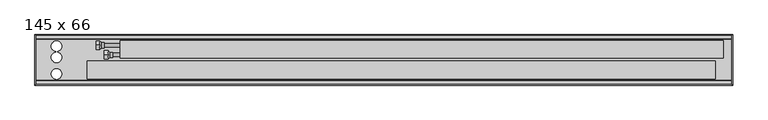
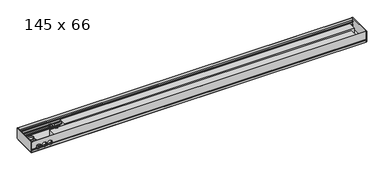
"""IFC4 building model written with IfcOpenShell, lengths in millimetres: proxy geometry, Mohlenhof_Внутрипольный конвектор_QSKM : 145 x 66."""

from ifc_helpers import new_model, si_unit, point, frame, frame_2d, origin, place, context, project, spatial, polyline, circle_curve, ellipse_curve, trimmed, segment, composite_curve, outline, extrude, source, transform, mapped, element, save
from ifc_brep_helpers import plane_surface, cylinder_surface, revolved_surface, advanced_brep


def proxy_145_x_66_9a70aef4(model_context):
    return source(origin(), model_context, "Body", "SolidModel", [
        extrude(outline(composite_curve([segment(trimmed(circle_curve(frame_2d((0.0, -223.5)), 4.5), [point((-4.5, -223.5))], [point((4.5, -223.5))], False, "CARTESIAN"), True, "CONTINUOUS"), segment(trimmed(circle_curve(frame_2d((0.0, -223.5)), 4.5), [point((4.5, -223.5))], [point((-4.5, -223.5))], False, "CARTESIAN"), True, "CONTINUOUS")], self_intersect=False)), frame((0.0, 0.0, -79.0), z_axis=(0.0, 0.0, 1.0), x_axis=(1.0, 0.0, 0.0)), (0.0, 0.0, 1.0), 7.0),
        extrude(outline(composite_curve([segment(trimmed(circle_curve(frame_2d((0.0, -223.5)), 4.0), [point((-4.0, -223.5))], [point((4.0, -223.5))], False, "CARTESIAN"), True, "CONTINUOUS"), segment(trimmed(circle_curve(frame_2d((0.0, -223.5)), 4.0), [point((4.0, -223.5))], [point((-4.0, -223.5))], False, "CARTESIAN"), True, "CONTINUOUS")], self_intersect=False)), frame((0.0, 0.0, -72.0), z_axis=(0.0, 0.0, 1.0), x_axis=(1.0, 0.0, 0.0)), (0.0, 0.0, 1.0), 1.5),
        extrude(outline(composite_curve([segment(trimmed(circle_curve(frame_2d((0.0, -121.5)), 4.5), [point((-4.5, -121.5))], [point((4.5, -121.5))], False, "CARTESIAN"), True, "CONTINUOUS"), segment(trimmed(circle_curve(frame_2d((0.0, -121.5)), 4.5), [point((4.5, -121.5))], [point((-4.5, -121.5))], False, "CARTESIAN"), True, "CONTINUOUS")], self_intersect=False)), frame((0.0, 0.0, -79.0), z_axis=(0.0, 0.0, 1.0), x_axis=(1.0, 0.0, 0.0)), (0.0, 0.0, 1.0), 7.0),
        extrude(outline(composite_curve([segment(trimmed(circle_curve(frame_2d((0.0, -121.5)), 4.0), [point((-4.0, -121.5))], [point((4.0, -121.5))], False, "CARTESIAN"), True, "CONTINUOUS"), segment(trimmed(circle_curve(frame_2d((0.0, -121.5)), 4.0), [point((4.0, -121.5))], [point((-4.0, -121.5))], False, "CARTESIAN"), True, "CONTINUOUS")], self_intersect=False)), frame((0.0, 0.0, -72.0), z_axis=(0.0, 0.0, 1.0), x_axis=(1.0, 0.0, 0.0)), (0.0, 0.0, 1.0), 1.5),
        advanced_brep(
        [(-790.0, -158.0, -47.5), (-790.0, -146.0, -47.5), (-790.0, -170.0, -47.5), (-777.5, -165.5, -47.5), (-777.5, -150.5, -47.5), (-777.5, -158.0, -47.5), (-785.0, -165.5, -47.5), (-785.0, -150.5, -47.5)],
        [
            (0, 1),
            (1, 2, circle_curve(frame((-790.0, -158.0, -47.5), z_axis=(-1.0, 0.0, 0.0), x_axis=(0.0, 1.0, 0.0)), 12.0)),
            (2, 0),
            (2, 1, circle_curve(frame((-790.0, -158.0, -47.5), z_axis=(-1.0, 0.0, 0.0), x_axis=(0.0, 1.0, 0.0)), 12.0)),
            (3, 4, circle_curve(frame((-777.5, -158.0, -47.5), z_axis=(1.0, 0.0, 0.0), x_axis=(0.0, 1.0, 0.0)), 7.5)),
            (4, 5),
            (5, 3),
            (4, 3, circle_curve(frame((-777.5, -158.0, -47.5), z_axis=(1.0, 0.0, 0.0), x_axis=(0.0, 1.0, 0.0)), 7.5)),
            (6, 7, circle_curve(frame((-785.0, -158.0, -47.5), z_axis=(1.0, 0.0, 0.0), x_axis=(0.0, 1.0, 0.0)), 7.5)),
            (7, 4),
            (3, 6),
            (7, 6, circle_curve(frame((-785.0, -158.0, -47.5), z_axis=(1.0, 0.0, 0.0), x_axis=(0.0, 1.0, 0.0)), 7.5)),
            (1, 7),
            (6, 2),
        ],
        [
            plane_surface(frame((-790.0, -158.0, -47.5), z_axis=(-1.0, 0.0, 0.0), x_axis=(0.0, 1.0, 0.0))),
            plane_surface(frame((-777.5, -158.0, -47.5), z_axis=(1.0, 0.0, 0.0), x_axis=(0.0, 1.0, 0.0))),
            cylinder_surface(frame((-790.0, -158.0, -47.5), z_axis=(-1.0, 0.0, 0.0), x_axis=(0.0, 1.0, 0.0)), 7.5),
            revolved_surface(polyline([(-785.0, -150.5, -47.5), (-790.0, -146.0, -47.5)]), (-790.0, -158.0, -47.5), (-1.0, 0.0, 0.0)),
        ],
        [
            (0, [[1, 2, 3]]),
            (0, [[-3, 4, -1]]),
            (1, [[5, 6, 7]]),
            (1, [[8, -7, -6]]),
            (2, [[9, 10, -5, 11]]),
            (2, [[12, -11, -8, -10]]),
            (3, [[-2, 13, -9, 14]]),
            (3, [[-4, -14, -12, -13]]),
        ],
    ),
        extrude(outline(polyline([(-158.0, -33.6435935), (-146.0, -40.5717968), (-146.0, -54.4282032), (-158.0, -61.3564065), (-170.0, -54.4282032), (-170.0, -40.5717968), (-158.0, -33.6435935)]), holes=[composite_curve([segment(trimmed(circle_curve(frame_2d((-158.0, -47.5)), 8.5), [point((-149.5, -47.5))], [point((-166.5, -47.5))], True, "CARTESIAN"), True, "CONTINUOUS"), segment(trimmed(circle_curve(frame_2d((-158.0, -47.5)), 8.5), [point((-166.5, -47.5))], [point((-149.5, -47.5))], True, "CARTESIAN"), True, "CONTINUOUS")], self_intersect=False)]), frame((-801.0, 0.0, 0.0), z_axis=(1.0, 0.0, 0.0), x_axis=(0.0, 1.0, 0.0)), (0.0, 0.0, 1.0), 11.0),
        advanced_brep(
        [(-814.0, -130.0, -34.5), (-814.0, -118.0, -34.5), (-814.0, -142.0, -34.5), (-801.5, -137.5, -34.5), (-801.5, -122.5, -34.5), (-801.5, -130.0, -34.5), (-809.0, -137.5, -34.5), (-809.0, -122.5, -34.5)],
        [
            (0, 1),
            (1, 2, circle_curve(frame((-814.0, -130.0, -34.5), z_axis=(-1.0, 0.0, 0.0), x_axis=(0.0, 1.0, 0.0)), 12.0)),
            (2, 0),
            (2, 1, circle_curve(frame((-814.0, -130.0, -34.5), z_axis=(-1.0, 0.0, 0.0), x_axis=(0.0, 1.0, 0.0)), 12.0)),
            (3, 4, circle_curve(frame((-801.5, -130.0, -34.5), z_axis=(1.0, 0.0, 0.0), x_axis=(0.0, 1.0, 0.0)), 7.5)),
            (4, 5),
            (5, 3),
            (4, 3, circle_curve(frame((-801.5, -130.0, -34.5), z_axis=(1.0, 0.0, 0.0), x_axis=(0.0, 1.0, 0.0)), 7.5)),
            (6, 7, circle_curve(frame((-809.0, -130.0, -34.5), z_axis=(1.0, 0.0, 0.0), x_axis=(0.0, 1.0, 0.0)), 7.5)),
            (7, 4),
            (3, 6),
            (7, 6, circle_curve(frame((-809.0, -130.0, -34.5), z_axis=(1.0, 0.0, 0.0), x_axis=(0.0, 1.0, 0.0)), 7.5)),
            (1, 7),
            (6, 2),
        ],
        [
            plane_surface(frame((-814.0, -130.0, -34.5), z_axis=(-1.0, 0.0, 0.0), x_axis=(0.0, 1.0, 0.0))),
            plane_surface(frame((-801.5, -130.0, -34.5), z_axis=(1.0, 0.0, 0.0), x_axis=(0.0, 1.0, 0.0))),
            cylinder_surface(frame((-814.0, -130.0, -34.5), z_axis=(-1.0, 0.0, 0.0), x_axis=(0.0, 1.0, 0.0)), 7.5),
            revolved_surface(polyline([(-809.0, -122.5, -34.5), (-814.0, -118.0, -34.5)]), (-814.0, -130.0, -34.5), (-1.0, 0.0, 0.0)),
        ],
        [
            (0, [[1, 2, 3]]),
            (0, [[-3, 4, -1]]),
            (1, [[5, 6, 7]]),
            (1, [[8, -7, -6]]),
            (2, [[9, 10, -5, 11]]),
            (2, [[12, -11, -8, -10]]),
            (3, [[-2, 13, -9, 14]]),
            (3, [[-4, -14, -12, -13]]),
        ],
    ),
        extrude(outline(polyline([(-130.0, -20.6435935), (-118.0, -27.5717968), (-118.0, -41.4282032), (-130.0, -48.3564065), (-142.0, -41.4282032), (-142.0, -27.5717968), (-130.0, -20.6435935)]), holes=[composite_curve([segment(trimmed(circle_curve(frame_2d((-130.0, -34.5)), 8.5), [point((-121.5, -34.5))], [point((-138.5, -34.5))], True, "CARTESIAN"), True, "CONTINUOUS"), segment(trimmed(circle_curve(frame_2d((-130.0, -34.5)), 8.5), [point((-138.5, -34.5))], [point((-121.5, -34.5))], True, "CARTESIAN"), True, "CONTINUOUS")], self_intersect=False)]), frame((-825.0, 0.0, 0.0), z_axis=(1.0, 0.0, 0.0), x_axis=(0.0, 1.0, 0.0)), (0.0, 0.0, 1.0), 11.0),
        extrude(outline(composite_curve([segment(trimmed(circle_curve(frame_2d((-975.0, -223.5)), 4.5), [point((-979.5, -223.5))], [point((-970.5, -223.5))], False, "CARTESIAN"), True, "CONTINUOUS"), segment(trimmed(circle_curve(frame_2d((-975.0, -223.5)), 4.5), [point((-970.5, -223.5))], [point((-979.5, -223.5))], False, "CARTESIAN"), True, "CONTINUOUS")], self_intersect=False)), frame((0.0, 0.0, -79.0), z_axis=(0.0, 0.0, 1.0), x_axis=(1.0, 0.0, 0.0)), (0.0, 0.0, 1.0), 7.0),
        extrude(outline(composite_curve([segment(trimmed(circle_curve(frame_2d((-975.0, -223.5)), 4.0), [point((-979.0, -223.5))], [point((-971.0, -223.5))], False, "CARTESIAN"), True, "CONTINUOUS"), segment(trimmed(circle_curve(frame_2d((-975.0, -223.5)), 4.0), [point((-971.0, -223.5))], [point((-979.0, -223.5))], False, "CARTESIAN"), True, "CONTINUOUS")], self_intersect=False)), frame((0.0, 0.0, -72.0), z_axis=(0.0, 0.0, 1.0), x_axis=(1.0, 0.0, 0.0)), (0.0, 0.0, 1.0), 1.5),
        extrude(outline(composite_curve([segment(trimmed(circle_curve(frame_2d((-975.0, -121.5)), 4.5), [point((-979.5, -121.5))], [point((-970.5, -121.5))], False, "CARTESIAN"), True, "CONTINUOUS"), segment(trimmed(circle_curve(frame_2d((-975.0, -121.5)), 4.5), [point((-970.5, -121.5))], [point((-979.5, -121.5))], False, "CARTESIAN"), True, "CONTINUOUS")], self_intersect=False)), frame((0.0, 0.0, -79.0), z_axis=(0.0, 0.0, 1.0), x_axis=(1.0, 0.0, 0.0)), (0.0, 0.0, 1.0), 7.0),
        extrude(outline(composite_curve([segment(trimmed(circle_curve(frame_2d((-975.0, -121.5)), 4.0), [point((-979.0, -121.5))], [point((-971.0, -121.5))], False, "CARTESIAN"), True, "CONTINUOUS"), segment(trimmed(circle_curve(frame_2d((-975.0, -121.5)), 4.0), [point((-971.0, -121.5))], [point((-979.0, -121.5))], False, "CARTESIAN"), True, "CONTINUOUS")], self_intersect=False)), frame((0.0, 0.0, -72.0), z_axis=(0.0, 0.0, 1.0), x_axis=(1.0, 0.0, 0.0)), (0.0, 0.0, 1.0), 1.5),
        extrude(outline(composite_curve([segment(trimmed(circle_curve(frame_2d((975.0, -223.5)), 4.5), [point((970.5, -223.5))], [point((979.5, -223.5))], False, "CARTESIAN"), True, "CONTINUOUS"), segment(trimmed(circle_curve(frame_2d((975.0, -223.5)), 4.5), [point((979.5, -223.5))], [point((970.5, -223.5))], False, "CARTESIAN"), True, "CONTINUOUS")], self_intersect=False)), frame((0.0, 0.0, -79.0), z_axis=(0.0, 0.0, 1.0), x_axis=(1.0, 0.0, 0.0)), (0.0, 0.0, 1.0), 7.0),
        extrude(outline(composite_curve([segment(trimmed(circle_curve(frame_2d((975.0, -223.5)), 4.0), [point((971.0, -223.5))], [point((979.0, -223.5))], False, "CARTESIAN"), True, "CONTINUOUS"), segment(trimmed(circle_curve(frame_2d((975.0, -223.5)), 4.0), [point((979.0, -223.5))], [point((971.0, -223.5))], False, "CARTESIAN"), True, "CONTINUOUS")], self_intersect=False)), frame((0.0, 0.0, -72.0), z_axis=(0.0, 0.0, 1.0), x_axis=(1.0, 0.0, 0.0)), (0.0, 0.0, 1.0), 1.5),
        extrude(outline(composite_curve([segment(trimmed(circle_curve(frame_2d((975.0, -121.5)), 4.5), [point((970.5, -121.5))], [point((979.5, -121.5))], False, "CARTESIAN"), True, "CONTINUOUS"), segment(trimmed(circle_curve(frame_2d((975.0, -121.5)), 4.5), [point((979.5, -121.5))], [point((970.5, -121.5))], False, "CARTESIAN"), True, "CONTINUOUS")], self_intersect=False)), frame((0.0, 0.0, -79.0), z_axis=(0.0, 0.0, 1.0), x_axis=(1.0, 0.0, 0.0)), (0.0, 0.0, 1.0), 7.0),
        extrude(outline(composite_curve([segment(trimmed(circle_curve(frame_2d((975.0, -121.5)), 4.0), [point((971.0, -121.5))], [point((979.0, -121.5))], False, "CARTESIAN"), True, "CONTINUOUS"), segment(trimmed(circle_curve(frame_2d((975.0, -121.5)), 4.0), [point((979.0, -121.5))], [point((971.0, -121.5))], False, "CARTESIAN"), True, "CONTINUOUS")], self_intersect=False)), frame((0.0, 0.0, -72.0), z_axis=(0.0, 0.0, 1.0), x_axis=(1.0, 0.0, 0.0)), (0.0, 0.0, 1.0), 1.5),
        extrude(outline(polyline([(950.0, -175.87), (950.0, -227.18), (-850.0, -227.18), (-850.0, -175.87), (950.0, -175.87)])), frame((0.0, 0.0, -62.5), z_axis=(0.0, 0.0, 1.0), x_axis=(1.0, 0.0, 0.0)), (0.0, 0.0, 1.0), 43.62),
        extrude(outline(composite_curve([segment(trimmed(circle_curve(frame_2d((-158.0, -47.5)), 5.0), [point((-163.0, -47.5))], [point((-153.0, -47.5))], False, "CARTESIAN"), True, "CONTINUOUS"), segment(trimmed(circle_curve(frame_2d((-158.0, -47.5)), 5.0), [point((-153.0, -47.5))], [point((-163.0, -47.5))], False, "CARTESIAN"), True, "CONTINUOUS")], self_intersect=False)), frame((-801.0, 0.0, 0.0), z_axis=(1.0, 0.0, 0.0), x_axis=(0.0, 1.0, 0.0)), (0.0, 0.0, 1.0), 46.0),
        extrude(outline(composite_curve([segment(trimmed(circle_curve(frame_2d((-130.0, -34.5)), 5.0), [point((-135.0, -34.5))], [point((-125.0, -34.5))], False, "CARTESIAN"), True, "CONTINUOUS"), segment(trimmed(circle_curve(frame_2d((-130.0, -34.5)), 5.0), [point((-125.0, -34.5))], [point((-135.0, -34.5))], False, "CARTESIAN"), True, "CONTINUOUS")], self_intersect=False)), frame((-825.0, 0.0, 0.0), z_axis=(1.0, 0.0, 0.0), x_axis=(0.0, 1.0, 0.0)), (0.0, 0.0, 1.0), 70.0),
        advanced_brep(
        [(998.0, -245.0, -48.5473602), (998.0, -243.5, -49.2468216), (998.0, -242.5, -49.2468216), (998.0, -242.5, -46.0008038), (998.0, -240.0, -46.0008038), (998.0, -240.0, -56.5008038), (998.0, -242.5, -56.5008038), (998.0, -242.5, -53.2468216), (998.0, -243.5, -53.2468216), (998.0, -245.0, -53.9462831), (998.0, -245.0, -66.5), (998.0, -241.0, -66.5), (998.0, -241.0, -65.2), (998.0, -243.0, -65.2), (998.0, -243.0, -62.5), (998.0, -232.0, -62.5), (998.0, -232.0, -54.9172677), (998.0, -233.4172677, -53.5), (998.0, -237.0, -53.5), (998.0, -237.0, -45.91), (998.0, -239.0, -43.91), (998.0, -239.0, -39.5), (998.0, -240.0, -39.5), (998.0, -240.0, -43.5), (998.0, -242.4956439, -43.5), (998.0, -242.4956439, -23.0), (998.0, -240.0, -23.0), (998.0, -240.0, -27.0), (998.0, -239.0, -27.0), (998.0, -239.0, -17.0), (998.0, -233.3956439, -17.0), (998.0, -233.3956439, -15.0), (998.0, -243.4, -15.0), (998.0, -243.4, 0.0), (998.0, -245.0, 0.0), (-998.0, -245.0, -48.5473602), (-998.0, -245.0, 0.0), (-998.0, -243.4, 0.0), (-998.0, -243.4, -15.0), (-998.0, -233.3956439, -15.0), (-998.0, -233.3956439, -17.0), (-998.0, -239.0, -17.0), (-998.0, -239.0, -27.0), (-998.0, -240.0, -27.0), (-998.0, -240.0, -23.0), (-998.0, -242.4956439, -23.0), (-998.0, -242.4956439, -43.5), (-998.0, -240.0, -43.5), (-998.0, -240.0, -39.5), (-998.0, -239.0, -39.5), (-998.0, -239.0, -43.91), (-998.0, -237.0, -45.91), (-998.0, -237.0, -53.5), (-998.0, -233.4172677, -53.5), (-998.0, -232.0, -54.9172677), (-998.0, -232.0, -62.5), (-998.0, -243.0, -62.5), (-998.0, -243.0, -65.2), (-998.0, -241.0, -65.2), (-998.0, -241.0, -66.5), (-998.0, -245.0, -66.5), (-998.0, -245.0, -53.9462831), (-998.0, -243.5, -53.2468216), (-998.0, -242.5, -53.2468216), (-998.0, -242.5, -56.5008038), (-998.0, -240.0, -56.5008038), (-998.0, -240.0, -46.0008038), (-998.0, -242.5, -46.0008038), (-998.0, -242.5, -49.2468216), (-998.0, -243.5, -49.2468216), (-878.7585985, -245.0, -48.5473602), (-879.155283, -243.5, -49.2468216), (-970.844717, -243.5, -49.2468216), (-971.2414015, -245.0, -48.5473602), (-938.2414015, -245.0, -48.5473602), (-944.7585985, -245.0, -48.5473602), (-945.155283, -243.5, -49.2468216), (-937.844717, -243.5, -49.2468216), (-905.2414015, -245.0, -48.5473602), (-911.7585985, -245.0, -48.5473602), (-912.155283, -243.5, -49.2468216), (-904.844717, -243.5, -49.2468216), (-879.155283, -242.5, -49.2468216), (-970.844717, -242.5, -49.2468216), (-945.155283, -242.5, -49.2468216), (-937.844717, -242.5, -49.2468216), (-912.155283, -242.5, -49.2468216), (-904.844717, -242.5, -49.2468216), (-877.6911648, -242.5, -46.0008038), (-972.3088352, -242.5, -46.0008038), (-943.6911648, -242.5, -46.0008038), (-939.3088352, -242.5, -46.0008038), (-910.6911648, -242.5, -46.0008038), (-906.3088352, -242.5, -46.0008038), (-877.6911648, -240.0, -46.0008038), (-972.3088352, -240.0, -46.0008038), (-943.6911648, -240.0, -46.0008038), (-939.3088352, -240.0, -46.0008038), (-910.6911648, -240.0, -46.0008038), (-906.3088352, -240.0, -46.0008038), (-967.328032, -242.5, -53.2468216), (-948.671968, -242.5, -53.2468216), (-934.328032, -242.5, -53.2468216), (-915.671968, -242.5, -53.2468216), (-901.328032, -242.5, -53.2468216), (-882.671968, -242.5, -53.2468216), (-882.671968, -243.5, -53.2468216), (-967.328032, -243.5, -53.2468216), (-948.671968, -243.5, -53.2468216), (-934.328032, -243.5, -53.2468216), (-915.671968, -243.5, -53.2468216), (-901.328032, -243.5, -53.2468216), (-883.6280208, -245.0, -53.9462831), (-966.3719792, -245.0, -53.9462831), (-949.6280208, -245.0, -53.9462831), (-933.3719792, -245.0, -53.9462831), (-916.6280208, -245.0, -53.9462831), (-900.3719792, -245.0, -53.9462831), (-964.7064841, -232.0, -54.9172677), (-951.2935159, -232.0, -54.9172677), (-931.7064841, -232.0, -54.9172677), (-918.2935159, -232.0, -54.9172677), (-898.7064841, -232.0, -54.9172677), (-885.2935159, -232.0, -54.9172677), (-883.0, -233.4172677, -53.5), (-967.0, -233.4172677, -53.5), (-949.0, -233.4172677, -53.5), (-934.0, -233.4172677, -53.5), (-916.0, -233.4172677, -53.5), (-901.0, -233.4172677, -53.5), (-883.0, -237.0, -53.5), (-967.0, -237.0, -53.5), (-949.0, -237.0, -53.5), (-934.0, -237.0, -53.5), (-916.0, -237.0, -53.5), (-901.0, -237.0, -53.5), (-877.6629187, -237.0, -45.91), (-972.3370813, -237.0, -45.91), (-943.6629187, -237.0, -45.91), (-939.3370813, -237.0, -45.91), (-910.6629187, -237.0, -45.91), (-906.3370813, -237.0, -45.91), (-877.1948691, -239.0, -43.91), (-972.8051309, -239.0, -43.91), (-943.1948691, -239.0, -43.91), (-939.8051309, -239.0, -43.91), (-910.1948691, -239.0, -43.91), (-906.8051309, -239.0, -43.91), (-877.0, -239.0, -41.5), (-877.1339313, -239.0, -39.5), (-972.8660687, -239.0, -39.5), (-973.0, -239.0, -41.5), (-943.0, -239.0, -41.5), (-943.1339313, -239.0, -39.5), (-939.8660687, -239.0, -39.5), (-940.0, -239.0, -41.5), (-910.0, -239.0, -41.5), (-910.1339313, -239.0, -39.5), (-906.8660687, -239.0, -39.5), (-907.0, -239.0, -41.5), (-877.1339313, -240.0, -39.5), (-972.8660687, -240.0, -39.5), (-943.1339313, -240.0, -39.5), (-939.8660687, -240.0, -39.5), (-910.1339313, -240.0, -39.5), (-906.8660687, -240.0, -39.5), (-877.0, -240.0, -41.5), (-877.1339313, -240.0, -43.5), (-972.8660687, -240.0, -43.5), (-973.0, -240.0, -41.5), (-943.0, -240.0, -41.5), (-943.1339313, -240.0, -43.5), (-939.8660687, -240.0, -43.5), (-940.0, -240.0, -41.5), (-910.0, -240.0, -41.5), (-910.1339313, -240.0, -43.5), (-906.8660687, -240.0, -43.5), (-907.0, -240.0, -41.5), (-877.1339313, -242.4956439, -43.5), (-972.8660687, -242.4956439, -43.5), (-943.1339313, -242.4956439, -43.5), (-939.8660687, -242.4956439, -43.5), (-910.1339313, -242.4956439, -43.5), (-906.8660687, -242.4956439, -43.5), (-877.0, -242.4956439, -41.5), (-907.0, -242.4956439, -41.5), (-910.0, -242.4956439, -41.5), (-940.0, -242.4956439, -41.5), (-943.0, -242.4956439, -41.5), (-973.0, -242.4956439, -41.5), (-961.8405729, -240.0, -27.0), (-954.1594271, -240.0, -27.0), (-928.8405729, -240.0, -27.0), (-921.1594271, -240.0, -27.0), (-895.8405729, -240.0, -27.0), (-888.1594271, -240.0, -27.0), (-888.1594271, -239.0, -27.0), (-961.8405729, -239.0, -27.0), (-954.1594271, -239.0, -27.0), (-928.8405729, -239.0, -27.0), (-921.1594271, -239.0, -27.0), (-895.8405729, -239.0, -27.0), (-973.0, -245.0, -41.5), (-943.0, -245.0, -41.5), (-940.0, -245.0, -41.5), (-910.0, -245.0, -41.5), (-907.0, -245.0, -41.5), (-877.0, -245.0, -41.5)],
        [
            (0, 1),
            (1, 2),
            (2, 3),
            (3, 4),
            (4, 5),
            (5, 6),
            (6, 7),
            (7, 8),
            (8, 9),
            (9, 10),
            (10, 11),
            (11, 12),
            (12, 13),
            (13, 14),
            (14, 15),
            (15, 16),
            (16, 17),
            (17, 18),
            (18, 19),
            (19, 20),
            (20, 21),
            (21, 22),
            (22, 23),
            (23, 24),
            (24, 25),
            (25, 26),
            (26, 27),
            (27, 28),
            (28, 29),
            (29, 30),
            (30, 31),
            (31, 32),
            (32, 33),
            (33, 34),
            (34, 0),
            (35, 36),
            (36, 37),
            (37, 38),
            (38, 39),
            (39, 40),
            (40, 41),
            (41, 42),
            (42, 43),
            (43, 44),
            (44, 45),
            (45, 46),
            (46, 47),
            (47, 48),
            (48, 49),
            (49, 50),
            (50, 51),
            (51, 52),
            (52, 53),
            (53, 54),
            (54, 55),
            (55, 56),
            (56, 57),
            (57, 58),
            (58, 59),
            (59, 60),
            (60, 61),
            (61, 62),
            (62, 63),
            (63, 64),
            (64, 65),
            (65, 66),
            (66, 67),
            (67, 68),
            (68, 69),
            (69, 35),
            (0, 70),
            (70, 71, ellipse_curve(frame((-892.0, -260.1131126, -41.5), z_axis=(0.0, 0.42261826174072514, 0.9063077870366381), x_axis=(0.0, -0.9063077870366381, 0.42261826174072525)), 35.4930237, 15.0)),
            (71, 1),
            (69, 72),
            (72, 73, ellipse_curve(frame((-958.0, -260.1131126, -41.5), z_axis=(0.0, 0.42261826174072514, 0.9063077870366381), x_axis=(0.0, -0.9063077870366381, 0.42261826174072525)), 35.4930237, 15.0)),
            (73, 35),
            (74, 75),
            (75, 76, ellipse_curve(frame((-958.0, -260.1131126, -41.5), z_axis=(0.0, 0.42261826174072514, 0.9063077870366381), x_axis=(0.0, -0.9063077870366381, 0.42261826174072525)), 35.4930237, 15.0)),
            (76, 77),
            (77, 74, ellipse_curve(frame((-925.0, -260.1131126, -41.5), z_axis=(0.0, 0.42261826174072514, 0.9063077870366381), x_axis=(0.0, -0.9063077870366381, 0.42261826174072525)), 35.4930237, 15.0)),
            (78, 79),
            (79, 80, ellipse_curve(frame((-925.0, -260.1131126, -41.5), z_axis=(0.0, 0.42261826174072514, 0.9063077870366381), x_axis=(0.0, -0.9063077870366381, 0.42261826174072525)), 35.4930237, 15.0)),
            (80, 81),
            (81, 78, ellipse_curve(frame((-892.0, -260.1131126, -41.5), z_axis=(0.0, 0.42261826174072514, 0.9063077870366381), x_axis=(0.0, -0.9063077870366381, 0.42261826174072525)), 35.4930237, 15.0)),
            (71, 82),
            (82, 2),
            (68, 83),
            (83, 72),
            (76, 84),
            (84, 85),
            (85, 77),
            (80, 86),
            (86, 87),
            (87, 81),
            (82, 88, circle_curve(frame((-892.0, -242.5, -41.5), z_axis=(0.0, -1.0, 0.0), x_axis=(1.0, 0.0, 0.0)), 15.0)),
            (88, 3),
            (67, 89),
            (89, 83, circle_curve(frame((-958.0, -242.5, -41.5), z_axis=(0.0, -1.0, 0.0), x_axis=(1.0, 0.0, 0.0)), 15.0)),
            (84, 90, circle_curve(frame((-958.0, -242.5, -41.5), z_axis=(0.0, -1.0, 0.0), x_axis=(1.0, 0.0, 0.0)), 15.0)),
            (90, 91),
            (91, 85, circle_curve(frame((-925.0, -242.5, -41.5), z_axis=(0.0, -1.0, 0.0), x_axis=(1.0, 0.0, 0.0)), 15.0)),
            (86, 92, circle_curve(frame((-925.0, -242.5, -41.5), z_axis=(0.0, -1.0, 0.0), x_axis=(1.0, 0.0, 0.0)), 15.0)),
            (92, 93),
            (93, 87, circle_curve(frame((-892.0, -242.5, -41.5), z_axis=(0.0, -1.0, 0.0), x_axis=(1.0, 0.0, 0.0)), 15.0)),
            (88, 94),
            (94, 4),
            (66, 95),
            (95, 89),
            (90, 96),
            (96, 97),
            (97, 91),
            (92, 98),
            (98, 99),
            (99, 93),
            (94, 99, circle_curve(frame((-892.0, -240.0, -41.5), z_axis=(0.0, 1.0, 0.0), x_axis=(1.0, 0.0, 0.0)), 15.0)),
            (98, 97, circle_curve(frame((-925.0, -240.0, -41.5), z_axis=(0.0, 1.0, 0.0), x_axis=(1.0, 0.0, 0.0)), 15.0)),
            (96, 95, circle_curve(frame((-958.0, -240.0, -41.5), z_axis=(0.0, 1.0, 0.0), x_axis=(1.0, 0.0, 0.0)), 15.0)),
            (65, 5),
            (64, 6),
            (63, 100),
            (100, 101, circle_curve(frame((-958.0, -242.5, -41.5), z_axis=(0.0, -1.0, 0.0), x_axis=(1.0, 0.0, 0.0)), 15.0)),
            (101, 102),
            (102, 103, circle_curve(frame((-925.0, -242.5, -41.5), z_axis=(0.0, -1.0, 0.0), x_axis=(1.0, 0.0, 0.0)), 15.0)),
            (103, 104),
            (104, 105, circle_curve(frame((-892.0, -242.5, -41.5), z_axis=(0.0, -1.0, 0.0), x_axis=(1.0, 0.0, 0.0)), 15.0)),
            (105, 7),
            (105, 106),
            (106, 8),
            (62, 107),
            (107, 100),
            (101, 108),
            (108, 109),
            (109, 102),
            (103, 110),
            (110, 111),
            (111, 104),
            (106, 112, ellipse_curve(frame((-892.0, -218.3088597, -41.5), z_axis=(0.0, 0.42261826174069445, -0.9063077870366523), x_axis=(0.0, -0.9063077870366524, -0.42261826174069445)), 35.4930237, 15.0)),
            (112, 9),
            (61, 113),
            (113, 107, ellipse_curve(frame((-958.0, -218.3088597, -41.5), z_axis=(0.0, 0.42261826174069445, -0.9063077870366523), x_axis=(0.0, -0.9063077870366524, -0.42261826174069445)), 35.4930237, 15.0)),
            (108, 114, ellipse_curve(frame((-958.0, -218.3088597, -41.5), z_axis=(0.0, 0.42261826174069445, -0.9063077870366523), x_axis=(0.0, -0.9063077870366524, -0.42261826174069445)), 35.4930237, 15.0)),
            (114, 115),
            (115, 109, ellipse_curve(frame((-925.0, -218.3088597, -41.5), z_axis=(0.0, 0.42261826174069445, -0.9063077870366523), x_axis=(0.0, -0.9063077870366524, -0.42261826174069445)), 35.4930237, 15.0)),
            (110, 116, ellipse_curve(frame((-925.0, -218.3088597, -41.5), z_axis=(0.0, 0.42261826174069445, -0.9063077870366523), x_axis=(0.0, -0.9063077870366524, -0.42261826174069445)), 35.4930237, 15.0)),
            (116, 117),
            (117, 111, ellipse_curve(frame((-892.0, -218.3088597, -41.5), z_axis=(0.0, 0.42261826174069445, -0.9063077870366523), x_axis=(0.0, -0.9063077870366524, -0.42261826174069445)), 35.4930237, 15.0)),
            (112, 117, circle_curve(frame((-892.0, -245.0, -41.5), z_axis=(0.0, 1.0, 0.0), x_axis=(1.0, 0.0, 0.0)), 15.0)),
            (116, 115, circle_curve(frame((-925.0, -245.0, -41.5), z_axis=(0.0, 1.0, 0.0), x_axis=(1.0, 0.0, 0.0)), 15.0)),
            (114, 113, circle_curve(frame((-958.0, -245.0, -41.5), z_axis=(0.0, 1.0, 0.0), x_axis=(1.0, 0.0, 0.0)), 15.0)),
            (60, 10),
            (59, 11),
            (58, 12),
            (57, 13),
            (56, 14),
            (55, 15),
            (54, 118),
            (118, 119, circle_curve(frame((-958.0, -232.0, -41.5), z_axis=(0.0, -1.0, 0.0), x_axis=(1.0, 0.0, 0.0)), 15.0)),
            (119, 120),
            (120, 121, circle_curve(frame((-925.0, -232.0, -41.5), z_axis=(0.0, -1.0, 0.0), x_axis=(1.0, 0.0, 0.0)), 15.0)),
            (121, 122),
            (122, 123, circle_curve(frame((-892.0, -232.0, -41.5), z_axis=(0.0, -1.0, 0.0), x_axis=(1.0, 0.0, 0.0)), 15.0)),
            (123, 16),
            (123, 124, ellipse_curve(frame((-892.0, -245.4172677, -41.5), z_axis=(0.0, -0.7071067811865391, -0.707106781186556), x_axis=(0.0, -0.7071067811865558, 0.7071067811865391)), 21.2132034, 15.0)),
            (124, 17),
            (53, 125),
            (125, 118, ellipse_curve(frame((-958.0, -245.4172677, -41.5), z_axis=(0.0, -0.7071067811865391, -0.707106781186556), x_axis=(0.0, -0.7071067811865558, 0.7071067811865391)), 21.2132034, 15.0)),
            (119, 126, ellipse_curve(frame((-958.0, -245.4172677, -41.5), z_axis=(0.0, -0.7071067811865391, -0.707106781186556), x_axis=(0.0, -0.7071067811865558, 0.7071067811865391)), 21.2132034, 15.0)),
            (126, 127),
            (127, 120, ellipse_curve(frame((-925.0, -245.4172677, -41.5), z_axis=(0.0, -0.7071067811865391, -0.707106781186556), x_axis=(0.0, -0.7071067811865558, 0.7071067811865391)), 21.2132034, 15.0)),
            (121, 128, ellipse_curve(frame((-925.0, -245.4172677, -41.5), z_axis=(0.0, -0.7071067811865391, -0.707106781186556), x_axis=(0.0, -0.7071067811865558, 0.7071067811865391)), 21.2132034, 15.0)),
            (128, 129),
            (129, 122, ellipse_curve(frame((-892.0, -245.4172677, -41.5), z_axis=(0.0, -0.7071067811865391, -0.707106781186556), x_axis=(0.0, -0.7071067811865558, 0.7071067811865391)), 21.2132034, 15.0)),
            (124, 130),
            (130, 18),
            (52, 131),
            (131, 125),
            (126, 132),
            (132, 133),
            (133, 127),
            (128, 134),
            (134, 135),
            (135, 129),
            (130, 136, circle_curve(frame((-892.0, -237.0, -41.5), z_axis=(0.0, -1.0, 0.0), x_axis=(1.0, 0.0, 0.0)), 15.0)),
            (136, 19),
            (51, 137),
            (137, 131, circle_curve(frame((-958.0, -237.0, -41.5), z_axis=(0.0, -1.0, 0.0), x_axis=(1.0, 0.0, 0.0)), 15.0)),
            (132, 138, circle_curve(frame((-958.0, -237.0, -41.5), z_axis=(0.0, -1.0, 0.0), x_axis=(1.0, 0.0, 0.0)), 15.0)),
            (138, 139),
            (139, 133, circle_curve(frame((-925.0, -237.0, -41.5), z_axis=(0.0, -1.0, 0.0), x_axis=(1.0, 0.0, 0.0)), 15.0)),
            (134, 140, circle_curve(frame((-925.0, -237.0, -41.5), z_axis=(0.0, -1.0, 0.0), x_axis=(1.0, 0.0, 0.0)), 15.0)),
            (140, 141),
            (141, 135, circle_curve(frame((-892.0, -237.0, -41.5), z_axis=(0.0, -1.0, 0.0), x_axis=(1.0, 0.0, 0.0)), 15.0)),
            (136, 142, ellipse_curve(frame((-892.0, -241.41, -41.5), z_axis=(0.0, -0.7071067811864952, -0.7071067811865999), x_axis=(0.0, -0.7071067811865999, 0.7071067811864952)), 21.2132034, 15.0)),
            (142, 20),
            (50, 143),
            (143, 137, ellipse_curve(frame((-958.0, -241.41, -41.5), z_axis=(0.0, -0.7071067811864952, -0.7071067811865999), x_axis=(0.0, -0.7071067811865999, 0.7071067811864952)), 21.2132034, 15.0)),
            (138, 144, ellipse_curve(frame((-958.0, -241.41, -41.5), z_axis=(0.0, -0.7071067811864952, -0.7071067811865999), x_axis=(0.0, -0.7071067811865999, 0.7071067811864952)), 21.2132034, 15.0)),
            (144, 145),
            (145, 139, ellipse_curve(frame((-925.0, -241.41, -41.5), z_axis=(0.0, -0.7071067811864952, -0.7071067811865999), x_axis=(0.0, -0.7071067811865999, 0.7071067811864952)), 21.2132034, 15.0)),
            (140, 146, ellipse_curve(frame((-925.0, -241.41, -41.5), z_axis=(0.0, -0.7071067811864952, -0.7071067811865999), x_axis=(0.0, -0.7071067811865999, 0.7071067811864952)), 21.2132034, 15.0)),
            (146, 147),
            (147, 141, ellipse_curve(frame((-892.0, -241.41, -41.5), z_axis=(0.0, -0.7071067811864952, -0.7071067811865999), x_axis=(0.0, -0.7071067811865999, 0.7071067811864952)), 21.2132034, 15.0)),
            (142, 148, circle_curve(frame((-892.0, -239.0, -41.5), z_axis=(0.0, -1.0, 0.0), x_axis=(1.0, 0.0, 0.0)), 15.0)),
            (148, 149, circle_curve(frame((-892.0, -239.0, -41.5), z_axis=(0.0, -1.0, 0.0), x_axis=(1.0, 0.0, 0.0)), 15.0)),
            (149, 21),
            (49, 150),
            (150, 151, circle_curve(frame((-958.0, -239.0, -41.5), z_axis=(0.0, -1.0, 0.0), x_axis=(1.0, 0.0, 0.0)), 15.0)),
            (151, 143, circle_curve(frame((-958.0, -239.0, -41.5), z_axis=(0.0, -1.0, 0.0), x_axis=(1.0, 0.0, 0.0)), 15.0)),
            (144, 152, circle_curve(frame((-958.0, -239.0, -41.5), z_axis=(0.0, -1.0, 0.0), x_axis=(1.0, 0.0, 0.0)), 15.0)),
            (152, 153, circle_curve(frame((-958.0, -239.0, -41.5), z_axis=(0.0, -1.0, 0.0), x_axis=(1.0, 0.0, 0.0)), 15.0)),
            (153, 154),
            (154, 155, circle_curve(frame((-925.0, -239.0, -41.5), z_axis=(0.0, -1.0, 0.0), x_axis=(1.0, 0.0, 0.0)), 15.0)),
            (155, 145, circle_curve(frame((-925.0, -239.0, -41.5), z_axis=(0.0, -1.0, 0.0), x_axis=(1.0, 0.0, 0.0)), 15.0)),
            (146, 156, circle_curve(frame((-925.0, -239.0, -41.5), z_axis=(0.0, -1.0, 0.0), x_axis=(1.0, 0.0, 0.0)), 15.0)),
            (156, 157, circle_curve(frame((-925.0, -239.0, -41.5), z_axis=(0.0, -1.0, 0.0), x_axis=(1.0, 0.0, 0.0)), 15.0)),
            (157, 158),
            (158, 159, circle_curve(frame((-892.0, -239.0, -41.5), z_axis=(0.0, -1.0, 0.0), x_axis=(1.0, 0.0, 0.0)), 15.0)),
            (159, 147, circle_curve(frame((-892.0, -239.0, -41.5), z_axis=(0.0, -1.0, 0.0), x_axis=(1.0, 0.0, 0.0)), 15.0)),
            (149, 160),
            (160, 22),
            (48, 161),
            (161, 150),
            (153, 162),
            (162, 163),
            (163, 154),
            (157, 164),
            (164, 165),
            (165, 158),
            (160, 166, circle_curve(frame((-892.0, -240.0, -41.5), z_axis=(0.0, 1.0, 0.0), x_axis=(1.0, 0.0, 0.0)), 15.0)),
            (166, 167, circle_curve(frame((-892.0, -240.0, -41.5), z_axis=(0.0, 1.0, 0.0), x_axis=(1.0, 0.0, 0.0)), 15.0)),
            (167, 23),
            (47, 168),
            (168, 169, circle_curve(frame((-958.0, -240.0, -41.5), z_axis=(0.0, 1.0, 0.0), x_axis=(1.0, 0.0, 0.0)), 15.0)),
            (169, 161, circle_curve(frame((-958.0, -240.0, -41.5), z_axis=(0.0, 1.0, 0.0), x_axis=(1.0, 0.0, 0.0)), 15.0)),
            (162, 170, circle_curve(frame((-958.0, -240.0, -41.5), z_axis=(0.0, 1.0, 0.0), x_axis=(1.0, 0.0, 0.0)), 15.0)),
            (170, 171, circle_curve(frame((-958.0, -240.0, -41.5), z_axis=(0.0, 1.0, 0.0), x_axis=(1.0, 0.0, 0.0)), 15.0)),
            (171, 172),
            (172, 173, circle_curve(frame((-925.0, -240.0, -41.5), z_axis=(0.0, 1.0, 0.0), x_axis=(1.0, 0.0, 0.0)), 15.0)),
            (173, 163, circle_curve(frame((-925.0, -240.0, -41.5), z_axis=(0.0, 1.0, 0.0), x_axis=(1.0, 0.0, 0.0)), 15.0)),
            (164, 174, circle_curve(frame((-925.0, -240.0, -41.5), z_axis=(0.0, 1.0, 0.0), x_axis=(1.0, 0.0, 0.0)), 15.0)),
            (174, 175, circle_curve(frame((-925.0, -240.0, -41.5), z_axis=(0.0, 1.0, 0.0), x_axis=(1.0, 0.0, 0.0)), 15.0)),
            (175, 176),
            (176, 177, circle_curve(frame((-892.0, -240.0, -41.5), z_axis=(0.0, 1.0, 0.0), x_axis=(1.0, 0.0, 0.0)), 15.0)),
            (177, 165, circle_curve(frame((-892.0, -240.0, -41.5), z_axis=(0.0, 1.0, 0.0), x_axis=(1.0, 0.0, 0.0)), 15.0)),
            (167, 178),
            (178, 24),
            (46, 179),
            (179, 168),
            (171, 180),
            (180, 181),
            (181, 172),
            (175, 182),
            (182, 183),
            (183, 176),
            (178, 184, circle_curve(frame((-892.0, -242.4956439, -41.5), z_axis=(0.0, -1.0, 0.0), x_axis=(1.0, 0.0, 0.0)), 15.0)),
            (184, 185, circle_curve(frame((-892.0, -242.4956439, -41.5), z_axis=(0.0, -1.0, 0.0), x_axis=(1.0, 0.0, 0.0)), 15.0)),
            (185, 183, circle_curve(frame((-892.0, -242.4956439, -41.5), z_axis=(0.0, -1.0, 0.0), x_axis=(1.0, 0.0, 0.0)), 15.0)),
            (182, 186, circle_curve(frame((-925.0, -242.4956439, -41.5), z_axis=(0.0, -1.0, 0.0), x_axis=(1.0, 0.0, 0.0)), 15.0)),
            (186, 187, circle_curve(frame((-925.0, -242.4956439, -41.5), z_axis=(0.0, -1.0, 0.0), x_axis=(1.0, 0.0, 0.0)), 15.0)),
            (187, 181, circle_curve(frame((-925.0, -242.4956439, -41.5), z_axis=(0.0, -1.0, 0.0), x_axis=(1.0, 0.0, 0.0)), 15.0)),
            (180, 188, circle_curve(frame((-958.0, -242.4956439, -41.5), z_axis=(0.0, -1.0, 0.0), x_axis=(1.0, 0.0, 0.0)), 15.0)),
            (188, 189, circle_curve(frame((-958.0, -242.4956439, -41.5), z_axis=(0.0, -1.0, 0.0), x_axis=(1.0, 0.0, 0.0)), 15.0)),
            (189, 179, circle_curve(frame((-958.0, -242.4956439, -41.5), z_axis=(0.0, -1.0, 0.0), x_axis=(1.0, 0.0, 0.0)), 15.0)),
            (45, 25),
            (44, 26),
            (43, 190),
            (190, 191, circle_curve(frame((-958.0, -240.0, -41.5), z_axis=(0.0, 1.0, 0.0), x_axis=(1.0, 0.0, 0.0)), 15.0)),
            (191, 192),
            (192, 193, circle_curve(frame((-925.0, -240.0, -41.5), z_axis=(0.0, 1.0, 0.0), x_axis=(1.0, 0.0, 0.0)), 15.0)),
            (193, 194),
            (194, 195, circle_curve(frame((-892.0, -240.0, -41.5), z_axis=(0.0, 1.0, 0.0), x_axis=(1.0, 0.0, 0.0)), 15.0)),
            (195, 27),
            (195, 196),
            (196, 28),
            (42, 197),
            (197, 190),
            (191, 198),
            (198, 199),
            (199, 192),
            (193, 200),
            (200, 201),
            (201, 194),
            (196, 201, circle_curve(frame((-892.0, -239.0, -41.5), z_axis=(0.0, -1.0, 0.0), x_axis=(1.0, 0.0, 0.0)), 15.0)),
            (200, 199, circle_curve(frame((-925.0, -239.0, -41.5), z_axis=(0.0, -1.0, 0.0), x_axis=(1.0, 0.0, 0.0)), 15.0)),
            (198, 197, circle_curve(frame((-958.0, -239.0, -41.5), z_axis=(0.0, -1.0, 0.0), x_axis=(1.0, 0.0, 0.0)), 15.0)),
            (41, 29),
            (40, 30),
            (39, 31),
            (38, 32),
            (37, 33),
            (36, 34),
            (73, 202, circle_curve(frame((-958.0, -245.0, -41.5), z_axis=(0.0, 1.0, 0.0), x_axis=(1.0, 0.0, 0.0)), 15.0)),
            (202, 203, circle_curve(frame((-958.0, -245.0, -41.5), z_axis=(0.0, 1.0, 0.0), x_axis=(1.0, 0.0, 0.0)), 15.0)),
            (203, 75, circle_curve(frame((-958.0, -245.0, -41.5), z_axis=(0.0, 1.0, 0.0), x_axis=(1.0, 0.0, 0.0)), 15.0)),
            (74, 204, circle_curve(frame((-925.0, -245.0, -41.5), z_axis=(0.0, 1.0, 0.0), x_axis=(1.0, 0.0, 0.0)), 15.0)),
            (204, 205, circle_curve(frame((-925.0, -245.0, -41.5), z_axis=(0.0, 1.0, 0.0), x_axis=(1.0, 0.0, 0.0)), 15.0)),
            (205, 79, circle_curve(frame((-925.0, -245.0, -41.5), z_axis=(0.0, 1.0, 0.0), x_axis=(1.0, 0.0, 0.0)), 15.0)),
            (78, 206, circle_curve(frame((-892.0, -245.0, -41.5), z_axis=(0.0, 1.0, 0.0), x_axis=(1.0, 0.0, 0.0)), 15.0)),
            (206, 207, circle_curve(frame((-892.0, -245.0, -41.5), z_axis=(0.0, 1.0, 0.0), x_axis=(1.0, 0.0, 0.0)), 15.0)),
            (207, 70, circle_curve(frame((-892.0, -245.0, -41.5), z_axis=(0.0, 1.0, 0.0), x_axis=(1.0, 0.0, 0.0)), 15.0)),
            (151, 169),
            (189, 202),
            (203, 188),
            (170, 152),
            (155, 173),
            (187, 204),
            (205, 186),
            (174, 156),
            (159, 177),
            (185, 206),
            (207, 184),
            (166, 148),
        ],
        [
            plane_surface(frame((998.0, -243.0, -62.5), z_axis=(1.0, 0.0, 0.0), x_axis=(0.0, 0.0, 1.0))),
            plane_surface(frame((-998.0, -243.0, -62.5), z_axis=(-1.0, 0.0, 0.0), x_axis=(0.0, 0.0, 1.0))),
            plane_surface(frame((998.0, -245.0, -48.5473602), z_axis=(0.0, -0.42261826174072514, -0.9063077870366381), x_axis=(-1.0, 0.0, 0.0))),
            plane_surface(frame((998.0, -243.5, -49.2468216), z_axis=(0.0, 0.0, -1.0), x_axis=(-1.0, 0.0, 0.0))),
            plane_surface(frame((998.0, -242.5, -49.2468216), z_axis=(0.0, 1.0, 0.0), x_axis=(-1.0, 0.0, 0.0))),
            plane_surface(frame((998.0, -242.5, -46.0008038), z_axis=(0.0, 0.0, -1.0), x_axis=(-1.0, 0.0, 0.0))),
            plane_surface(frame((998.0, -240.0, -46.0008038), z_axis=(0.0, -1.0, 0.0), x_axis=(-1.0, 0.0, 0.0))),
            plane_surface(frame((998.0, -240.0, -56.5008038), z_axis=(0.0, 0.0, 1.0), x_axis=(-1.0, 0.0, 0.0))),
            plane_surface(frame((998.0, -242.5, -56.5008038), z_axis=(0.0, 1.0, 0.0), x_axis=(-1.0, 0.0, 0.0))),
            plane_surface(frame((998.0, -242.5, -53.2468216), z_axis=(0.0, 0.0, 1.0), x_axis=(-1.0, 0.0, 0.0))),
            plane_surface(frame((998.0, -243.5, -53.2468216), z_axis=(0.0, -0.42261826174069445, 0.9063077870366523), x_axis=(-1.0, 0.0, 0.0))),
            plane_surface(frame((998.0, -245.0, -53.9462831), z_axis=(0.0, -1.0, 0.0), x_axis=(-1.0, 0.0, 0.0))),
            plane_surface(frame((998.0, -245.0, -66.5), z_axis=(0.0, 0.0, -1.0), x_axis=(-1.0, 0.0, 0.0))),
            plane_surface(frame((998.0, -241.0, -66.5), z_axis=(0.0, 1.0, 0.0), x_axis=(-1.0, 0.0, 0.0))),
            plane_surface(frame((998.0, -241.0, -65.2), z_axis=(0.0, 0.0, 1.0), x_axis=(-1.0, 0.0, 0.0))),
            plane_surface(frame((998.0, -243.0, -65.2), z_axis=(0.0, 1.0, 0.0), x_axis=(-1.0, 0.0, 0.0))),
            plane_surface(frame((998.0, -243.0, -62.5), z_axis=(0.0, 0.0, -1.0), x_axis=(-1.0, 0.0, 0.0))),
            plane_surface(frame((998.0, -232.0, -62.5), z_axis=(0.0, 1.0, 0.0), x_axis=(-1.0, 0.0, 0.0))),
            plane_surface(frame((998.0, -232.0, -54.9172677), z_axis=(0.0, 0.7071067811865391, 0.707106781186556), x_axis=(-1.0, 0.0, 0.0))),
            plane_surface(frame((998.0, -233.4172677, -53.5), z_axis=(0.0, 0.0, 1.0), x_axis=(-1.0, 0.0, 0.0))),
            plane_surface(frame((998.0, -237.0, -53.5), z_axis=(0.0, 1.0, 0.0), x_axis=(-1.0, 0.0, 0.0))),
            plane_surface(frame((998.0, -237.0, -45.91), z_axis=(0.0, 0.7071067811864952, 0.7071067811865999), x_axis=(-1.0, 0.0, 0.0))),
            plane_surface(frame((998.0, -239.0, -43.91), z_axis=(0.0, 1.0, 0.0), x_axis=(-1.0, 0.0, 0.0))),
            plane_surface(frame((998.0, -239.0, -39.5), z_axis=(0.0, 0.0, 1.0), x_axis=(-1.0, 0.0, 0.0))),
            plane_surface(frame((998.0, -240.0, -39.5), z_axis=(0.0, -1.0, 0.0), x_axis=(-1.0, 0.0, 0.0))),
            plane_surface(frame((998.0, -240.0, -43.5), z_axis=(0.0, 0.0, 1.0), x_axis=(-1.0, 0.0, 0.0))),
            plane_surface(frame((998.0, -242.4956439, -43.5), z_axis=(0.0, 1.0, 0.0), x_axis=(-1.0, 0.0, 0.0))),
            plane_surface(frame((998.0, -242.4956439, -23.0), z_axis=(0.0, 0.0, -1.0), x_axis=(-1.0, 0.0, 0.0))),
            plane_surface(frame((998.0, -240.0, -23.0), z_axis=(0.0, -1.0, 0.0), x_axis=(-1.0, 0.0, 0.0))),
            plane_surface(frame((998.0, -240.0, -27.0), z_axis=(0.0, 0.0, -1.0), x_axis=(-1.0, 0.0, 0.0))),
            plane_surface(frame((998.0, -239.0, -27.0), z_axis=(0.0, 1.0, 0.0), x_axis=(-1.0, 0.0, 0.0))),
            plane_surface(frame((998.0, -239.0, -17.0), z_axis=(0.0, 0.0, -1.0), x_axis=(-1.0, 0.0, 0.0))),
            plane_surface(frame((998.0, -233.3956439, -17.0), z_axis=(0.0, 1.0, 0.0), x_axis=(-1.0, 0.0, 0.0))),
            plane_surface(frame((998.0, -233.3956439, -15.0), z_axis=(0.0, 0.0, 1.0), x_axis=(-1.0, 0.0, 0.0))),
            plane_surface(frame((998.0, -243.4, -15.0), z_axis=(0.0, 1.0, 0.0), x_axis=(-1.0, 0.0, 0.0))),
            plane_surface(frame((998.0, -243.4, 0.0), z_axis=(0.0, 0.0, 1.0), x_axis=(-1.0, 0.0, 0.0))),
            plane_surface(frame((998.0, -245.0, 0.0), z_axis=(0.0, -1.0, 0.0), x_axis=(-1.0, 0.0, 0.0))),
            revolved_surface(polyline([(-943.0, -250.47646346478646, -41.5), (-943.0, -186.14125593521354, -41.5)]), (-958.0, -213.0, -41.5), (0.0, -1.0, 0.0)),
            revolved_surface(polyline([(-943.0, -292.280716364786, -41.5), (-943.0, -226.41000002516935, -41.5)]), (-958.0, -213.0, -41.5), (0.0, -1.0, 0.0)),
            revolved_surface(polyline([(-943.0, -240.0, -41.5), (-943.0, -239.0, -41.5)]), (-958.0, -213.0, -41.5), (0.0, -1.0, 0.0)),
            revolved_surface(polyline([(-943.0, -245.0, -41.5), (-943.0, -242.4956439, -41.5)]), (-958.0, -213.0, -41.5), (0.0, -1.0, 0.0)),
            revolved_surface(polyline([(-910.0, -250.47646346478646, -41.5), (-910.0, -186.14125593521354, -41.5)]), (-925.0, 0.0, -41.5), (0.0, -1.0, 0.0)),
            revolved_surface(polyline([(-910.0, -292.280716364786, -41.5), (-910.0, -226.41000002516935, -41.5)]), (-925.0, 0.0, -41.5), (0.0, -1.0, 0.0)),
            revolved_surface(polyline([(-910.0, -240.0, -41.5), (-910.0, -239.0, -41.5)]), (-925.0, 0.0, -41.5), (0.0, -1.0, 0.0)),
            revolved_surface(polyline([(-910.0, -245.0, -41.5), (-910.0, -242.4956439, -41.5)]), (-925.0, 0.0, -41.5), (0.0, -1.0, 0.0)),
            revolved_surface(polyline([(-877.0, -250.47646346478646, -41.5), (-877.0, -186.14125593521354, -41.5)]), (-892.0, 0.0, -41.5), (0.0, -1.0, 0.0)),
            revolved_surface(polyline([(-877.0, -292.280716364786, -41.5), (-877.0, -226.41000002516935, -41.5)]), (-892.0, 0.0, -41.5), (0.0, -1.0, 0.0)),
            revolved_surface(polyline([(-877.0, -240.0, -41.5), (-877.0, -239.0, -41.5)]), (-892.0, 0.0, -41.5), (0.0, -1.0, 0.0)),
            revolved_surface(polyline([(-877.0, -245.0, -41.5), (-877.0, -242.4956439, -41.5)]), (-892.0, 0.0, -41.5), (0.0, -1.0, 0.0)),
        ],
        [
            (0, [[1, 2, 3, 4, 5, 6, 7, 8, 9, 10, 11, 12, 13, 14, 15, 16, 17, 18, 19, 20, 21, 22, 23, 24, 25, 26, 27, 28, 29, 30, 31, 32, 33, 34, 35]]),
            (1, [[36, 37, 38, 39, 40, 41, 42, 43, 44, 45, 46, 47, 48, 49, 50, 51, 52, 53, 54, 55, 56, 57, 58, 59, 60, 61, 62, 63, 64, 65, 66, 67, 68, 69, 70]]),
            (2, [[-1, 71, 72, 73]]),
            (2, [[-70, 74, 75, 76]]),
            (2, [[77, 78, 79, 80]]),
            (2, [[81, 82, 83, 84]]),
            (3, [[-2, -73, 85, 86]]),
            (3, [[-69, 87, 88, -74]]),
            (3, [[-79, 89, 90, 91]]),
            (3, [[-83, 92, 93, 94]]),
            (4, [[-3, -86, 95, 96]]),
            (4, [[-68, 97, 98, -87]]),
            (4, [[-90, 99, 100, 101]]),
            (4, [[-93, 102, 103, 104]]),
            (5, [[-4, -96, 105, 106]]),
            (5, [[-67, 107, 108, -97]]),
            (5, [[-100, 109, 110, 111]]),
            (5, [[-103, 112, 113, 114]]),
            (6, [[-5, -106, 115, -113, 116, -110, 117, -107, -66, 118]]),
            (7, [[-6, -118, -65, 119]]),
            (8, [[-7, -119, -64, 120, 121, 122, 123, 124, 125, 126]]),
            (9, [[-8, -126, 127, 128]]),
            (9, [[-63, 129, 130, -120]]),
            (9, [[-122, 131, 132, 133]]),
            (9, [[-124, 134, 135, 136]]),
            (10, [[-9, -128, 137, 138]]),
            (10, [[-62, 139, 140, -129]]),
            (10, [[-132, 141, 142, 143]]),
            (10, [[-135, 144, 145, 146]]),
            (11, [[-10, -138, 147, -145, 148, -142, 149, -139, -61, 150]]),
            (12, [[-11, -150, -60, 151]]),
            (13, [[-12, -151, -59, 152]]),
            (14, [[-13, -152, -58, 153]]),
            (15, [[-14, -153, -57, 154]]),
            (16, [[-15, -154, -56, 155]]),
            (17, [[-16, -155, -55, 156, 157, 158, 159, 160, 161, 162]]),
            (18, [[-17, -162, 163, 164]]),
            (18, [[-54, 165, 166, -156]]),
            (18, [[-158, 167, 168, 169]]),
            (18, [[-160, 170, 171, 172]]),
            (19, [[-18, -164, 173, 174]]),
            (19, [[-53, 175, 176, -165]]),
            (19, [[-168, 177, 178, 179]]),
            (19, [[-171, 180, 181, 182]]),
            (20, [[-19, -174, 183, 184]]),
            (20, [[-52, 185, 186, -175]]),
            (20, [[-178, 187, 188, 189]]),
            (20, [[-181, 190, 191, 192]]),
            (21, [[-20, -184, 193, 194]]),
            (21, [[-51, 195, 196, -185]]),
            (21, [[-188, 197, 198, 199]]),
            (21, [[-191, 200, 201, 202]]),
            (22, [[-21, -194, 203, 204, 205]]),
            (22, [[-50, 206, 207, 208, -195]]),
            (22, [[-198, 209, 210, 211, 212, 213]]),
            (22, [[-201, 214, 215, 216, 217, 218]]),
            (23, [[-22, -205, 219, 220]]),
            (23, [[-49, 221, 222, -206]]),
            (23, [[-211, 223, 224, 225]]),
            (23, [[-216, 226, 227, 228]]),
            (24, [[-23, -220, 229, 230, 231]]),
            (24, [[-48, 232, 233, 234, -221]]),
            (24, [[-224, 235, 236, 237, 238, 239]]),
            (24, [[-227, 240, 241, 242, 243, 244]]),
            (25, [[-24, -231, 245, 246]]),
            (25, [[-47, 247, 248, -232]]),
            (25, [[-237, 249, 250, 251]]),
            (25, [[-242, 252, 253, 254]]),
            (26, [[-25, -246, 255, 256, 257, -253, 258, 259, 260, -250, 261, 262, 263, -247, -46, 264]]),
            (27, [[-26, -264, -45, 265]]),
            (28, [[-27, -265, -44, 266, 267, 268, 269, 270, 271, 272]]),
            (29, [[-28, -272, 273, 274]]),
            (29, [[-43, 275, 276, -266]]),
            (29, [[-268, 277, 278, 279]]),
            (29, [[-270, 280, 281, 282]]),
            (30, [[-29, -274, 283, -281, 284, -278, 285, -275, -42, 286]]),
            (31, [[-30, -286, -41, 287]]),
            (32, [[-31, -287, -40, 288]]),
            (33, [[-32, -288, -39, 289]]),
            (34, [[-33, -289, -38, 290]]),
            (35, [[-34, -290, -37, 291]]),
            (36, [[-35, -291, -36, -76, 292, 293, 294, -77, 295, 296, 297, -81, 298, 299, 300, -71]]),
            (37, [[-121, -130, -140, -149, -141, -131]]),
            (38, [[301, -233, -248, -263, 302, -292, -75, -88, -98, -108, -117, -109, -99, -89, -78, -294, 303, -261, -249, -236, 304, -209, -197, -187, -177, -167, -157, -166, -176, -186, -196, -208]]),
            (39, [[-267, -276, -285, -277]]),
            (39, [[-301, -207, -222, -234]]),
            (40, [[-302, -262, -303, -293]]),
            (39, [[-304, -235, -223, -210]]),
            (41, [[-123, -133, -143, -148, -144, -134]]),
            (42, [[305, -238, -251, -260, 306, -295, -80, -91, -101, -111, -116, -112, -102, -92, -82, -297, 307, -258, -252, -241, 308, -214, -200, -190, -180, -170, -159, -169, -179, -189, -199, -213]]),
            (43, [[-269, -279, -284, -280]]),
            (43, [[-305, -212, -225, -239]]),
            (44, [[-306, -259, -307, -296]]),
            (43, [[-308, -240, -226, -215]]),
            (45, [[-125, -136, -146, -147, -137, -127]]),
            (46, [[309, -243, -254, -257, 310, -298, -84, -94, -104, -114, -115, -105, -95, -85, -72, -300, 311, -255, -245, -230, 312, -203, -193, -183, -173, -163, -161, -172, -182, -192, -202, -218]]),
            (47, [[-271, -282, -283, -273]]),
            (47, [[-309, -217, -228, -244]]),
            (48, [[-310, -256, -311, -299]]),
            (47, [[-312, -229, -219, -204]]),
        ],
    ),
        extrude(outline(polyline([(-100.0, -48.5473602), (-101.5, -49.2468216), (-102.5, -49.2468216), (-102.5, -46.0008038), (-105.0, -46.0008038), (-105.0, -56.5008038), (-102.5, -56.5008038), (-102.5, -53.2468216), (-101.5, -53.2468216), (-100.0, -53.9462831), (-100.0, -66.5), (-104.0, -66.5), (-104.0, -65.2), (-102.0, -65.2), (-102.0, -62.5), (-113.0, -62.5), (-113.0, -54.9172677), (-111.5827323, -53.5), (-108.0, -53.5), (-108.0, -45.91), (-106.0, -43.91), (-106.0, -39.5), (-105.0, -39.5), (-105.0, -43.5), (-102.5043561, -43.5), (-102.5043561, -23.0), (-105.0, -23.0), (-105.0, -27.0), (-106.0, -27.0), (-106.0, -17.0), (-111.6043561, -17.0), (-111.6043561, -15.0), (-101.6, -15.0), (-101.6, 0.0), (-100.0, 0.0), (-100.0, -48.5473602)])), frame((-998.0, 0.0, 0.0), z_axis=(1.0, 0.0, 0.0), x_axis=(0.0, 1.0, 0.0)), (0.0, 0.0, 1.0), 1996.0),
        extrude(outline(polyline([(998.0, -104.499991), (998.0, -240.5), (-998.0, -240.5), (-998.0, -104.499991), (998.0, -104.499991)]), holes=[composite_curve([segment(trimmed(circle_curve(frame_2d((-938.0, -133.0)), 15.0), [point((-953.0, -133.0))], [point((-923.0, -133.0))], True, "CARTESIAN"), True, "CONTINUOUS"), segment(trimmed(circle_curve(frame_2d((-938.0, -133.0)), 15.0), [point((-923.0, -133.0))], [point((-953.0, -133.0))], True, "CARTESIAN"), True, "CONTINUOUS")], self_intersect=False), composite_curve([segment(trimmed(circle_curve(frame_2d((-938.0, -165.0)), 15.0), [point((-953.0, -165.0))], [point((-923.0, -165.0))], True, "CARTESIAN"), True, "CONTINUOUS"), segment(trimmed(circle_curve(frame_2d((-938.0, -165.0)), 15.0), [point((-923.0, -165.0))], [point((-953.0, -165.0))], True, "CARTESIAN"), True, "CONTINUOUS")], self_intersect=False), composite_curve([segment(trimmed(circle_curve(frame_2d((-938.0, -213.0)), 15.0), [point((-953.0, -213.0))], [point((-923.0, -213.0))], True, "CARTESIAN"), True, "CONTINUOUS"), segment(trimmed(circle_curve(frame_2d((-938.0, -213.0)), 15.0), [point((-923.0, -213.0))], [point((-953.0, -213.0))], True, "CARTESIAN"), True, "CONTINUOUS")], self_intersect=False)]), frame((0.0, 0.0, -71.5), z_axis=(0.0, 0.0, 1.0), x_axis=(1.0, 0.0, 0.0)), (0.0, 0.0, 1.0), 6.3),
        extrude(outline(polyline([(998.0, -102.0), (998.0, -243.0), (-998.0, -243.0), (-998.0, -102.0), (998.0, -102.0)]), holes=[composite_curve([segment(trimmed(circle_curve(frame_2d((-938.0, -133.0)), 15.0), [point((-953.0, -133.0))], [point((-923.0, -133.0))], True, "CARTESIAN"), True, "CONTINUOUS"), segment(trimmed(circle_curve(frame_2d((-938.0, -133.0)), 15.0), [point((-923.0, -133.0))], [point((-953.0, -133.0))], True, "CARTESIAN"), True, "CONTINUOUS")], self_intersect=False), composite_curve([segment(trimmed(circle_curve(frame_2d((-938.0, -165.0)), 15.0), [point((-953.0, -165.0))], [point((-923.0, -165.0))], True, "CARTESIAN"), True, "CONTINUOUS"), segment(trimmed(circle_curve(frame_2d((-938.0, -165.0)), 15.0), [point((-923.0, -165.0))], [point((-953.0, -165.0))], True, "CARTESIAN"), True, "CONTINUOUS")], self_intersect=False), composite_curve([segment(trimmed(circle_curve(frame_2d((-938.0, -213.0)), 15.0), [point((-953.0, -213.0))], [point((-923.0, -213.0))], True, "CARTESIAN"), True, "CONTINUOUS"), segment(trimmed(circle_curve(frame_2d((-938.0, -213.0)), 15.0), [point((-923.0, -213.0))], [point((-953.0, -213.0))], True, "CARTESIAN"), True, "CONTINUOUS")], self_intersect=False)]), frame((0.0, 0.0, -65.2), z_axis=(0.0, 0.0, 1.0), x_axis=(1.0, 0.0, 0.0)), (0.0, 0.0, 1.0), 2.7),
        extrude(outline(polyline([(973.0, -117.0), (973.0, -167.0), (-755.0, -167.0), (-755.0, -117.0), (973.0, -117.0)])), frame((0.0, 0.0, -62.5), z_axis=(0.0, 0.0, 1.0), x_axis=(1.0, 0.0, 0.0)), (0.0, 0.0, 1.0), 43.0),
        extrude(outline(polyline([(1000.0, -245.0), (998.0, -245.0), (998.0, -100.0), (1000.0, -100.0), (1000.0, -245.0)])), frame((0.0, 0.0, -66.5), z_axis=(0.0, 0.0, 1.0), x_axis=(1.0, 0.0, 0.0)), (0.0, 0.0, 1.0), 66.5),
        extrude(outline(polyline([(-998.0, -100.0), (-998.0, -245.0), (-1000.0, -245.0), (-1000.0, -100.0), (-998.0, -100.0)])), frame((0.0, 0.0, -66.5), z_axis=(0.0, 0.0, 1.0), x_axis=(1.0, 0.0, 0.0)), (0.0, 0.0, 1.0), 66.5),
    ])


if __name__ == "__main__":
    model = new_model("IFC4")
    model_context = context("Model", 3, world=origin())
    ifc_project = project(units=[si_unit("LENGTHUNIT", "METRE", prefix="MILLI")], contexts=[model_context])
    site = spatial("IfcSite", under=ifc_project)
    building = spatial("IfcBuilding", under=site)
    placement = place(None, origin())
    proxy_145_x_66_shape = proxy_145_x_66_9a70aef4(model_context)
    element("IfcBuildingElementProxy", 1, Name="Mohlenhof_Внутрипольный конвектор_QSKM : 145 x 66", ObjectType="Mohlenhof_Внутрипольный конвектор_QSKM : 145 x 66", at=placement, inside=building, context=model_context, shape_type="MappedRepresentation", body=[
        mapped(proxy_145_x_66_shape, transform((0.0, 0.0, 0.0), x_axis=(1.0, 0.0, 0.0), y_axis=(0.0, 1.0, 0.0), z_axis=(0.0, 0.0, 1.0))),
    ])
    save(model, "model.ifc")
